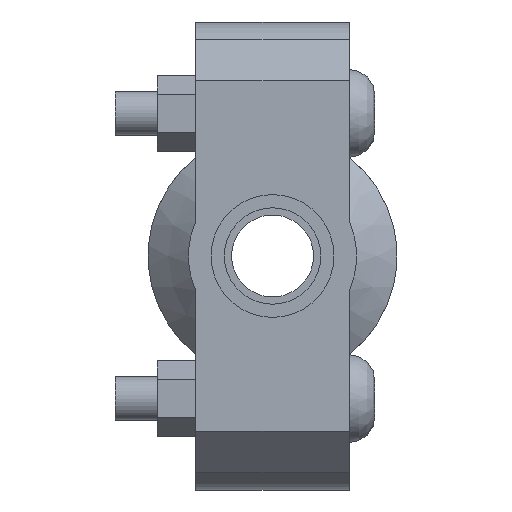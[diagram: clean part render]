
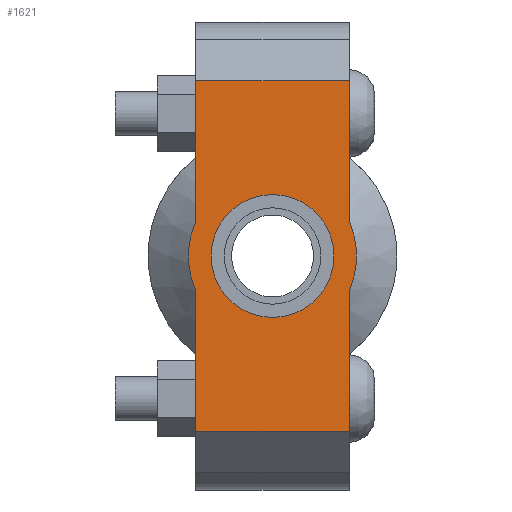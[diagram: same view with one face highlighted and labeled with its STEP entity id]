
A CAD part, left-side view. The second image highlights one B-rep face of the part: STEP entity #1621.
In plain terms, the highlighted planar face has unit normal (-1, 0, 0) as drawn and (0, 0, 1) by its records, which use the part's own axes.
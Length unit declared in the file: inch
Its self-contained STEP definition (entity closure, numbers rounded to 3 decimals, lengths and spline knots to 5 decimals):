
#176=LINE('',#2803,#273);
#191=LINE('',#2862,#288);
#199=LINE('',#2892,#296);
#201=LINE('',#2895,#298);
#202=LINE('',#2900,#299);
#203=LINE('',#2901,#300);
#273=VECTOR('',#2279,0.3937);
#288=VECTOR('',#2314,0.3937);
#296=VECTOR('',#2334,0.3937);
#298=VECTOR('',#2338,0.3937);
#299=VECTOR('',#2343,0.3937);
#300=VECTOR('',#2344,0.3937);
#364=FACE_BOUND('',#541,.T.);
#432=FACE_OUTER_BOUND('',#540,.T.);
#540=EDGE_LOOP('',(#1322,#1323,#1324,#1325,#1326,#1327,#1328,#1329));
#541=EDGE_LOOP('',(#1330));
#623=CIRCLE('',#1849,0.525);
#647=CIRCLE('',#1901,0.719);
#648=CIRCLE('',#1902,0.719);
#719=VERTEX_POINT('',#2629);
#760=VERTEX_POINT('',#2800);
#761=VERTEX_POINT('',#2802);
#782=VERTEX_POINT('',#2857);
#783=VERTEX_POINT('',#2861);
#792=VERTEX_POINT('',#2887);
#793=VERTEX_POINT('',#2891);
#794=VERTEX_POINT('',#2897);
#795=VERTEX_POINT('',#2899);
#883=EDGE_CURVE('',#719,#719,#623,.T.);
#940=EDGE_CURVE('',#761,#760,#176,.T.);
#965=EDGE_CURVE('',#783,#782,#191,.T.);
#978=EDGE_CURVE('',#793,#792,#199,.T.);
#980=EDGE_CURVE('',#793,#760,#201,.T.);
#981=EDGE_CURVE('',#792,#794,#647,.T.);
#982=EDGE_CURVE('',#794,#795,#202,.T.);
#983=EDGE_CURVE('',#783,#795,#203,.T.);
#984=EDGE_CURVE('',#782,#761,#648,.T.);
#1322=ORIENTED_EDGE('',*,*,#980,.F.);
#1323=ORIENTED_EDGE('',*,*,#978,.T.);
#1324=ORIENTED_EDGE('',*,*,#981,.T.);
#1325=ORIENTED_EDGE('',*,*,#982,.T.);
#1326=ORIENTED_EDGE('',*,*,#983,.F.);
#1327=ORIENTED_EDGE('',*,*,#965,.T.);
#1328=ORIENTED_EDGE('',*,*,#984,.T.);
#1329=ORIENTED_EDGE('',*,*,#940,.T.);
#1330=ORIENTED_EDGE('',*,*,#883,.T.);
#1461=PLANE('',#1900);
#1621=ADVANCED_FACE('',(#432,#364),#1461,.T.);
#1849=AXIS2_PLACEMENT_3D('',#2631,#2169,#2170);
#1900=AXIS2_PLACEMENT_3D('',#2896,#2339,#2340);
#1901=AXIS2_PLACEMENT_3D('',#2898,#2341,#2342);
#1902=AXIS2_PLACEMENT_3D('',#2902,#2345,#2346);
#2169=DIRECTION('center_axis',(0.,0.,-1.));
#2170=DIRECTION('ref_axis',(-1.,0.,0.));
#2279=DIRECTION('',(-1.,0.,0.));
#2314=DIRECTION('',(-1.,0.,0.));
#2334=DIRECTION('',(1.,0.,0.));
#2338=DIRECTION('',(0.,1.,0.));
#2339=DIRECTION('center_axis',(0.,0.,1.));
#2340=DIRECTION('ref_axis',(1.,0.,0.));
#2341=DIRECTION('center_axis',(0.,0.,1.));
#2342=DIRECTION('ref_axis',(-1.,0.,0.));
#2343=DIRECTION('',(1.,0.,0.));
#2344=DIRECTION('',(0.,-1.,0.));
#2345=DIRECTION('center_axis',(0.,0.,1.));
#2346=DIRECTION('ref_axis',(-1.,0.,0.));
#2629=CARTESIAN_POINT('',(0.525,0.,0.875));
#2631=CARTESIAN_POINT('Origin',(0.,0.,0.875));
#2800=CARTESIAN_POINT('',(-1.5,0.656,0.875));
#2802=CARTESIAN_POINT('',(-0.29432,0.656,0.875));
#2803=CARTESIAN_POINT('',(2.,0.656,0.875));
#2857=CARTESIAN_POINT('',(0.29432,0.656,0.875));
#2861=CARTESIAN_POINT('',(1.5,0.656,0.875));
#2862=CARTESIAN_POINT('',(2.,0.656,0.875));
#2887=CARTESIAN_POINT('',(-0.29432,-0.656,0.875));
#2891=CARTESIAN_POINT('',(-1.5,-0.656,0.875));
#2892=CARTESIAN_POINT('',(-2.,-0.656,0.875));
#2895=CARTESIAN_POINT('',(-1.5,0.328,0.875));
#2896=CARTESIAN_POINT('Origin',(0.,0.,
0.875));
#2897=CARTESIAN_POINT('',(0.29432,-0.656,0.875));
#2898=CARTESIAN_POINT('Origin',(0.,0.,0.875));
#2899=CARTESIAN_POINT('',(1.5,-0.656,0.875));
#2900=CARTESIAN_POINT('',(-2.,-0.656,0.875));
#2901=CARTESIAN_POINT('',(1.5,-0.328,0.875));
#2902=CARTESIAN_POINT('Origin',(0.,0.,0.875));
